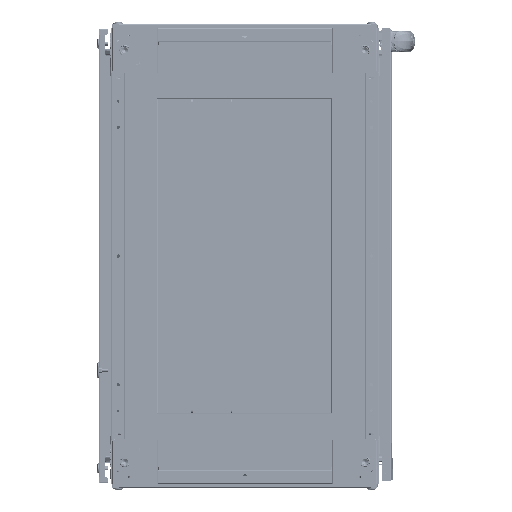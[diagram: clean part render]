
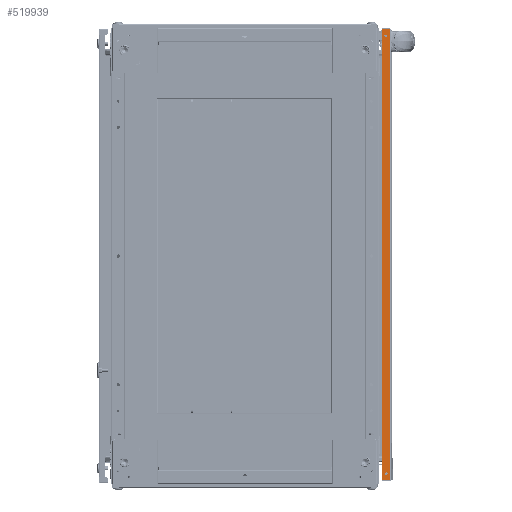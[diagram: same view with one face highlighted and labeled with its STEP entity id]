
A CAD part, front view. The second image highlights one B-rep face of the part: STEP entity #519939.
In plain terms, the highlighted planar face has unit normal (0, -1, 0) as drawn and (-1, 0, 0) by its records, which use the part's own axes.
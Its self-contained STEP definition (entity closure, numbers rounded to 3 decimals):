
#6986 = ORIENTED_EDGE ( 'NONE', *, *, #575591, .T. ) ;
#17383 = DIRECTION ( 'NONE',  ( 1., 0., 0. ) ) ;
#19039 = EDGE_LOOP ( 'NONE', ( #111904, #529928 ) ) ;
#27220 = CARTESIAN_POINT ( 'NONE',  ( -2.01, 9., -13.3 ) ) ;
#33240 = CARTESIAN_POINT ( 'NONE',  ( -2.01, 9., -8.7 ) ) ;
#40931 = CARTESIAN_POINT ( 'NONE',  ( -2.01, 16., -788. ) ) ;
#42513 = DIRECTION ( 'NONE',  ( 0., 0., -1. ) ) ;
#45960 = ORIENTED_EDGE ( 'NONE', *, *, #208707, .F. ) ;
#52000 = DIRECTION ( 'NONE',  ( 1., 0., 0. ) ) ;
#54023 = CIRCLE ( 'NONE', #166212, 2.3 ) ;
#73427 = VERTEX_POINT ( 'NONE', #27220 ) ;
#79819 = EDGE_LOOP ( 'NONE', ( #486946, #406610 ) ) ;
#82286 = VECTOR ( 'NONE', #602105, 1000. ) ;
#83120 = CARTESIAN_POINT ( 'NONE',  ( -2.01, 9., -774.7 ) ) ;
#100433 = VECTOR ( 'NONE', #42513, 1000. ) ;
#111904 = ORIENTED_EDGE ( 'NONE', *, *, #662068, .T. ) ;
#122068 = AXIS2_PLACEMENT_3D ( 'NONE', #220103, #378054, #490361 ) ;
#141182 = EDGE_CURVE ( 'NONE', #73427, #552790, #631309, .T. ) ;
#144367 = CARTESIAN_POINT ( 'NONE',  ( -2.01, 2.01, -788. ) ) ;
#150037 = EDGE_CURVE ( 'NONE', #518772, #539587, #349152, .T. ) ;
#166212 = AXIS2_PLACEMENT_3D ( 'NONE', #557898, #17383, #564823 ) ;
#171081 = DIRECTION ( 'NONE',  ( 0., 1., 0. ) ) ;
#174092 = CARTESIAN_POINT ( 'NONE',  ( -2.01, 9., -779.3 ) ) ;
#190070 = ORIENTED_EDGE ( 'NONE', *, *, #150037, .T. ) ;
#191788 = DIRECTION ( 'NONE',  ( 1., 0., 0. ) ) ;
#197731 = CIRCLE ( 'NONE', #421722, 2.3 ) ;
#201796 = VERTEX_POINT ( 'NONE', #83120 ) ;
#208707 = EDGE_CURVE ( 'NONE', #597425, #347705, #312725, .T. ) ;
#220103 = CARTESIAN_POINT ( 'NONE',  ( -2.01, 9., -777. ) ) ;
#249807 = CARTESIAN_POINT ( 'NONE',  ( -2.01, 16., 0. ) ) ;
#249989 = AXIS2_PLACEMENT_3D ( 'NONE', #439595, #544997, #653686 ) ;
#266064 = FACE_BOUND ( 'NONE', #19039, .T. ) ;
#303410 = ORIENTED_EDGE ( 'NONE', *, *, #419674, .T. ) ;
#312725 = LINE ( 'NONE', #144367, #100433 ) ;
#329086 = CARTESIAN_POINT ( 'NONE',  ( -2.01, 16., -788. ) ) ;
#340736 = CARTESIAN_POINT ( 'NONE',  ( -2.01, 16., -788. ) ) ;
#342921 = EDGE_CURVE ( 'NONE', #552790, #73427, #197731, .T. ) ;
#347683 = CARTESIAN_POINT ( 'NONE',  ( -2.01, 16., 0. ) ) ;
#347705 = VERTEX_POINT ( 'NONE', #587658 ) ;
#349152 = LINE ( 'NONE', #654750, #82286 ) ;
#372693 = CARTESIAN_POINT ( 'NONE',  ( -2.01, 2.01, 0. ) ) ;
#378054 = DIRECTION ( 'NONE',  ( 1., 0., 0. ) ) ;
#382977 = DIRECTION ( 'NONE',  ( 0., -1., 0. ) ) ;
#406610 = ORIENTED_EDGE ( 'NONE', *, *, #342921, .T. ) ;
#419674 = EDGE_CURVE ( 'NONE', #539587, #347705, #449508, .T. ) ;
#421722 = AXIS2_PLACEMENT_3D ( 'NONE', #616533, #191788, #458608 ) ;
#424066 = PLANE ( 'NONE',  #637537 ) ;
#439595 = CARTESIAN_POINT ( 'NONE',  ( -2.01, 9., -11. ) ) ;
#449508 = LINE ( 'NONE', #340736, #648650 ) ;
#458380 = CIRCLE ( 'NONE', #122068, 2.3 ) ;
#458608 = DIRECTION ( 'NONE',  ( 0., 0., -1. ) ) ;
#470841 = LINE ( 'NONE', #249807, #533027 ) ;
#486946 = ORIENTED_EDGE ( 'NONE', *, *, #141182, .T. ) ;
#487100 = FACE_OUTER_BOUND ( 'NONE', #530241, .T. ) ;
#490361 = DIRECTION ( 'NONE',  ( 0., 0., -1. ) ) ;
#518772 = VERTEX_POINT ( 'NONE', #347683 ) ;
#519939 = ADVANCED_FACE ( 'NONE', ( #266064, #585549, #487100 ), #424066, .F. ) ;
#520087 = DIRECTION ( 'NONE',  ( 0., 1., 0. ) ) ;
#529928 = ORIENTED_EDGE ( 'NONE', *, *, #557217, .T. ) ;
#530241 = EDGE_LOOP ( 'NONE', ( #45960, #6986, #190070, #303410 ) ) ;
#533027 = VECTOR ( 'NONE', #520087, 1000. ) ;
#539587 = VERTEX_POINT ( 'NONE', #40931 ) ;
#544997 = DIRECTION ( 'NONE',  ( 1., 0., 0. ) ) ;
#552790 = VERTEX_POINT ( 'NONE', #33240 ) ;
#557217 = EDGE_CURVE ( 'NONE', #201796, #665705, #458380, .T. ) ;
#557898 = CARTESIAN_POINT ( 'NONE',  ( -2.01, 9., -777. ) ) ;
#564823 = DIRECTION ( 'NONE',  ( 0., 0., -1. ) ) ;
#575591 = EDGE_CURVE ( 'NONE', #597425, #518772, #470841, .T. ) ;
#585549 = FACE_BOUND ( 'NONE', #79819, .T. ) ;
#587658 = CARTESIAN_POINT ( 'NONE',  ( -2.01, 2.01, -788. ) ) ;
#597425 = VERTEX_POINT ( 'NONE', #372693 ) ;
#602105 = DIRECTION ( 'NONE',  ( 0., 0., -1. ) ) ;
#616533 = CARTESIAN_POINT ( 'NONE',  ( -2.01, 9., -11. ) ) ;
#631309 = CIRCLE ( 'NONE', #249989, 2.3 ) ;
#637537 = AXIS2_PLACEMENT_3D ( 'NONE', #329086, #52000, #171081 ) ;
#648650 = VECTOR ( 'NONE', #382977, 1000. ) ;
#653686 = DIRECTION ( 'NONE',  ( 0., 0., -1. ) ) ;
#654750 = CARTESIAN_POINT ( 'NONE',  ( -2.01, 16., -788. ) ) ;
#662068 = EDGE_CURVE ( 'NONE', #665705, #201796, #54023, .T. ) ;
#665705 = VERTEX_POINT ( 'NONE', #174092 ) ;
